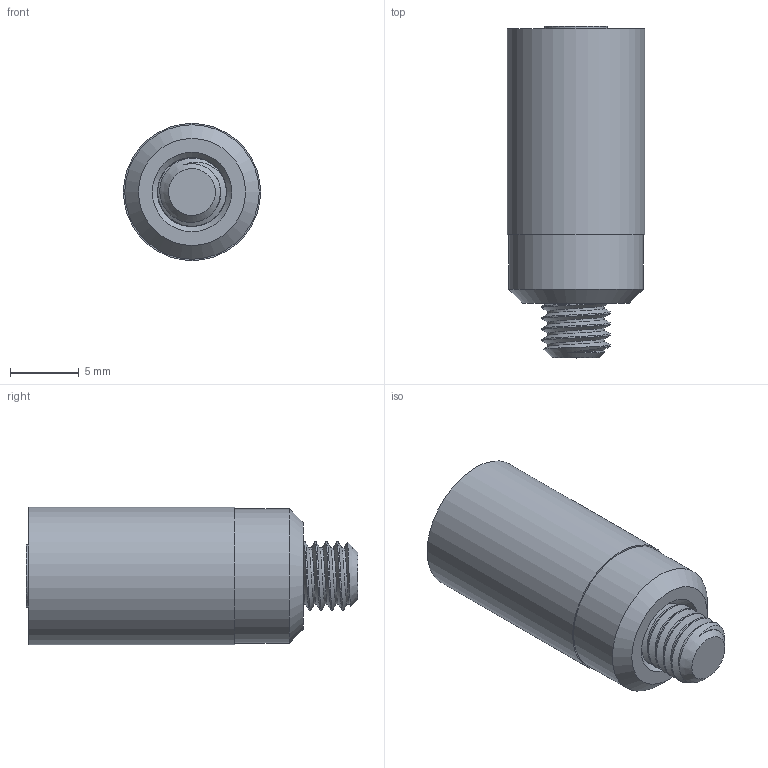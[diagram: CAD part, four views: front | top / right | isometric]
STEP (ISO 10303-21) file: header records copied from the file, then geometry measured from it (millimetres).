
FILE_DESCRIPTION (( 'STEP AP214' ), '1' );
FILE_NAME ('DAF-10.STEP', '2018-10-09T17:58:12', ( '' ), ( '' ), 'SwSTEP 2.0', 'SolidWorks 2017', '' );
FILE_SCHEMA (( 'AUTOMOTIVE_DESIGN' ));
Length unit declared in the file: millimetre
Products named in the file (1): DAF-10
Bounding box: 10 x 24.2 x 10 mm (x, y, z)
Volume: 1570.9 mm3; surface area: 1108.6 mm2
Topology: 2 solids, 2 shells, 101 faces, 259 edges, 173 vertices
Faces by surface type: plane 53, cylinder 38, bspline 6, cone 4
Full cylindrical faces by diameter (mm): 4.2 x4, 4.6 x1, 9.8 x1, 10 x1
Entity records: 7497 total; most frequent: CARTESIAN_POINT 4334, ORIENTED_EDGE 466, DIRECTION 353, EDGE_CURVE 233, VERTEX_POINT 159, LINE 141, VECTOR 141, EDGE_LOOP 116
